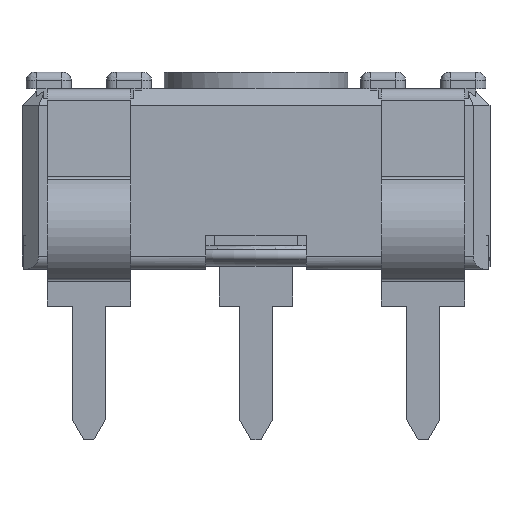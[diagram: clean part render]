
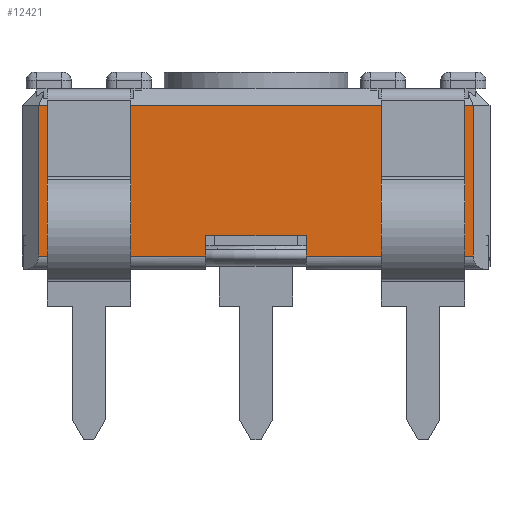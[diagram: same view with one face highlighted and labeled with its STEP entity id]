
A CAD part, front view. The second image highlights one B-rep face of the part: STEP entity #12421.
In plain terms, the highlighted planar face has unit normal (0, -1, 0).
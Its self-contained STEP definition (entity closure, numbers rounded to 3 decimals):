
#1231=FACE_OUTER_BOUND('',#1854,.T.);
#1854=EDGE_LOOP('',(#10474,#10475,#10476,#10477,#10478,#10479,#10480,#10481));
#2785=LINE('',#19471,#4072);
#2793=LINE('',#19488,#4080);
#2810=LINE('',#19531,#4097);
#2811=LINE('',#19536,#4098);
#3087=LINE('',#20325,#4374);
#3099=LINE('',#20347,#4386);
#3121=LINE('',#20398,#4408);
#3125=LINE('',#20404,#4412);
#4072=VECTOR('',#15716,10.);
#4080=VECTOR('',#15728,10.);
#4097=VECTOR('',#15765,10.);
#4098=VECTOR('',#15772,10.);
#4374=VECTOR('',#16498,10.);
#4386=VECTOR('',#16520,10.);
#4408=VECTOR('',#16566,10.);
#4412=VECTOR('',#16574,10.);
#5292=VERTEX_POINT('',#19468);
#5293=VERTEX_POINT('',#19470);
#5300=VERTEX_POINT('',#19486);
#5315=VERTEX_POINT('',#19528);
#5316=VERTEX_POINT('',#19530);
#5317=VERTEX_POINT('',#19534);
#5573=VERTEX_POINT('',#20324);
#5585=VERTEX_POINT('',#20396);
#6813=EDGE_CURVE('',#5292,#5293,#2785,.T.);
#6822=EDGE_CURVE('',#5292,#5300,#2793,.T.);
#6843=EDGE_CURVE('',#5315,#5316,#2810,.T.);
#6846=EDGE_CURVE('',#5316,#5317,#2811,.T.);
#7230=EDGE_CURVE('',#5573,#5293,#3087,.T.);
#7242=EDGE_CURVE('',#5315,#5573,#3099,.T.);
#7265=EDGE_CURVE('',#5585,#5300,#3121,.T.);
#7269=EDGE_CURVE('',#5317,#5585,#3125,.T.);
#10474=ORIENTED_EDGE('',*,*,#6813,.F.);
#10475=ORIENTED_EDGE('',*,*,#6822,.T.);
#10476=ORIENTED_EDGE('',*,*,#7265,.F.);
#10477=ORIENTED_EDGE('',*,*,#7269,.F.);
#10478=ORIENTED_EDGE('',*,*,#6846,.F.);
#10479=ORIENTED_EDGE('',*,*,#6843,.F.);
#10480=ORIENTED_EDGE('',*,*,#7242,.T.);
#10481=ORIENTED_EDGE('',*,*,#7230,.T.);
#11236=PLANE('',#13436);
#12421=ADVANCED_FACE('',(#1231),#11236,.T.);
#13436=AXIS2_PLACEMENT_3D('',#20403,#16572,#16573);
#15716=DIRECTION('',(-1.,0.,0.));
#15728=DIRECTION('',(0.,0.,1.));
#15765=DIRECTION('',(0.,0.,-1.));
#15772=DIRECTION('',(-1.,0.,0.));
#16498=DIRECTION('',(0.,0.,-1.));
#16520=DIRECTION('',(1.,0.,0.));
#16566=DIRECTION('',(1.,0.,0.));
#16572=DIRECTION('center_axis',(0.,-1.,0.));
#16573=DIRECTION('ref_axis',(1.,0.,0.));
#16574=DIRECTION('',(0.,0.,1.));
#19468=CARTESIAN_POINT('',(-3.655,0.3,-0.6));
#19470=CARTESIAN_POINT('',(-8.655,0.3,-0.6));
#19471=CARTESIAN_POINT('',(-11.325,0.3,-0.6));
#19486=CARTESIAN_POINT('',(-3.655,0.3,3.9));
#19488=CARTESIAN_POINT('',(-3.655,0.3,0.));
#19528=CARTESIAN_POINT('',(-11.655,0.3,0.));
#19530=CARTESIAN_POINT('',(-11.655,0.3,-0.6));
#19531=CARTESIAN_POINT('',(-11.655,0.3,-0.3));
#19534=CARTESIAN_POINT('',(-16.655,0.3,-0.6));
#19536=CARTESIAN_POINT('',(-15.484,0.3,-0.6));
#20324=CARTESIAN_POINT('',(-8.655,0.3,0.));
#20325=CARTESIAN_POINT('',(-8.655,0.3,0.));
#20347=CARTESIAN_POINT('',(-16.655,0.3,0.));
#20396=CARTESIAN_POINT('',(-16.655,0.3,3.9));
#20398=CARTESIAN_POINT('',(-13.405,0.3,3.9));
#20403=CARTESIAN_POINT('Origin',(-16.655,0.3,0.));
#20404=CARTESIAN_POINT('',(-16.655,0.3,0.));
